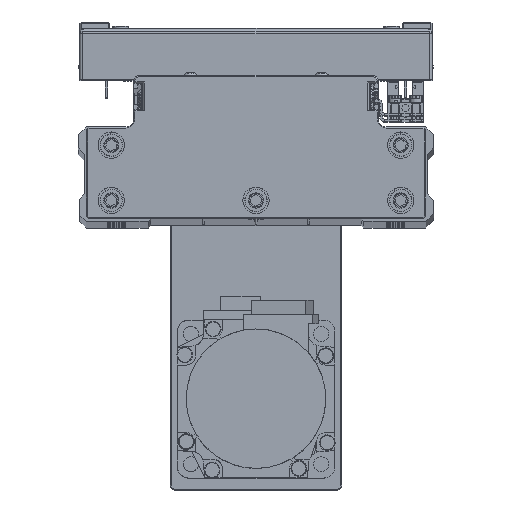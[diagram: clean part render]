
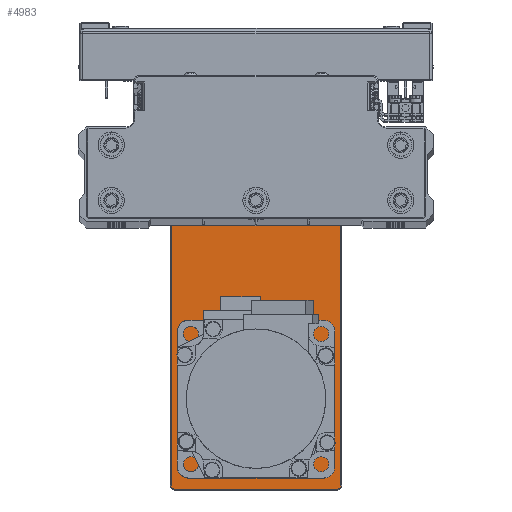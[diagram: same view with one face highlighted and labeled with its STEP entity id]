
A CAD part, top view. The second image highlights one B-rep face of the part: STEP entity #4983.
In plain terms, the highlighted planar face has unit normal (0, 0, 1) as drawn and (0, 1, 0) by its records, which use the part's own axes.
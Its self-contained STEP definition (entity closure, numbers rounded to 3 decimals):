
#453 = VERTEX_POINT ( 'NONE', #2696 ) ;
#470 = CARTESIAN_POINT ( 'NONE',  ( 75.992, 6., -7.026 ) ) ;
#481 = DIRECTION ( 'NONE',  ( 0., 1., 0. ) ) ;
#2177 = FACE_OUTER_BOUND ( 'NONE', #15603, .T. ) ;
#2343 = CARTESIAN_POINT ( 'NONE',  ( 84.7, 6., 31. ) ) ;
#2696 = CARTESIAN_POINT ( 'NONE',  ( 75.992, 6., -10.076 ) ) ;
#2980 = CIRCLE ( 'NONE', #28522, 1.525 ) ;
#4983 = ADVANCED_FACE ( 'NONE', ( #5636, #19573, #33462, #2177, #16117 ), #30048, .F. ) ;
#5180 = AXIS2_PLACEMENT_3D ( 'NONE', #44129, #12859, #26793 ) ;
#5270 = ORIENTED_EDGE ( 'NONE', *, *, #31035, .T. ) ;
#5636 = FACE_BOUND ( 'NONE', #7567, .T. ) ;
#5998 = AXIS2_PLACEMENT_3D ( 'NONE', #12992, #26920, #40820 ) ;
#6191 = CARTESIAN_POINT ( 'NONE',  ( 83.5, 6., 31. ) ) ;
#6651 = DIRECTION ( 'NONE',  ( 0., 0., -1. ) ) ;
#6892 = AXIS2_PLACEMENT_3D ( 'NONE', #28917, #42827, #11552 ) ;
#6955 = EDGE_CURVE ( 'NONE', #29317, #24431, #16482, .T. ) ;
#6975 = CARTESIAN_POINT ( 'NONE',  ( -84.7, 6., -31. ) ) ;
#6990 = CARTESIAN_POINT ( 'NONE',  ( 52.5, 6., -10.3 ) ) ;
#7567 = EDGE_LOOP ( 'NONE', ( #22444, #9499 ) ) ;
#9086 = DIRECTION ( 'NONE',  ( 0., 1., 0. ) ) ;
#9174 = ORIENTED_EDGE ( 'NONE', *, *, #26125, .T. ) ;
#9178 = VERTEX_POINT ( 'NONE', #6975 ) ;
#9353 = CARTESIAN_POINT ( 'NONE',  ( 61.051, 6., 21.967 ) ) ;
#9499 = ORIENTED_EDGE ( 'NONE', *, *, #12367, .F. ) ;
#9758 = CARTESIAN_POINT ( 'NONE',  ( 52.5, 6., 0. ) ) ;
#9945 = LINE ( 'NONE', #23884, #40568 ) ;
#10646 = LINE ( 'NONE', #24583, #21865 ) ;
#11027 = ORIENTED_EDGE ( 'NONE', *, *, #11296, .F. ) ;
#11200 = CIRCLE ( 'NONE', #36702, 1.2 ) ;
#11296 = EDGE_CURVE ( 'NONE', #32236, #453, #2980, .T. ) ;
#11552 = DIRECTION ( 'NONE',  ( 0., 0., 1. ) ) ;
#11945 = ORIENTED_EDGE ( 'NONE', *, *, #39210, .F. ) ;
#12367 = EDGE_CURVE ( 'NONE', #13550, #28107, #25699, .T. ) ;
#12700 = DIRECTION ( 'NONE',  ( 0., -1., 0. ) ) ;
#12859 = DIRECTION ( 'NONE',  ( 0., -1., 0. ) ) ;
#12979 = CARTESIAN_POINT ( 'NONE',  ( -50.5, 6., -15. ) ) ;
#12992 = CARTESIAN_POINT ( 'NONE',  ( 61.051, 6., 23.492 ) ) ;
#13014 = CARTESIAN_POINT ( 'NONE',  ( 0., 6., 32.2 ) ) ;
#13065 = DIRECTION ( 'NONE',  ( 0., 1., 0. ) ) ;
#13286 = CIRCLE ( 'NONE', #38766, 1.2 ) ;
#13506 = EDGE_LOOP ( 'NONE', ( #20929, #11945 ) ) ;
#13550 = VERTEX_POINT ( 'NONE', #9353 ) ;
#13753 = CARTESIAN_POINT ( 'NONE',  ( 83.5, 6., 32.2 ) ) ;
#13769 = DIRECTION ( 'NONE',  ( 0., 1., 0. ) ) ;
#14398 = VERTEX_POINT ( 'NONE', #29789 ) ;
#14423 = DIRECTION ( 'NONE',  ( 0., 0., 1. ) ) ;
#14674 = CARTESIAN_POINT ( 'NONE',  ( -83.5, 6., 31. ) ) ;
#15388 = VERTEX_POINT ( 'NONE', #6990 ) ;
#15566 = CIRCLE ( 'NONE', #41061, 1.2 ) ;
#15603 = EDGE_LOOP ( 'NONE', ( #25309, #25994, #36723, #29000, #44263, #9174, #5270, #30388 ) ) ;
#15770 = CARTESIAN_POINT ( 'NONE',  ( -83.5, 6., -31. ) ) ;
#16117 = FACE_BOUND ( 'NONE', #13506, .T. ) ;
#16482 = LINE ( 'NONE', #30415, #20171 ) ;
#16896 = CIRCLE ( 'NONE', #42392, 1.525 ) ;
#18132 = VERTEX_POINT ( 'NONE', #21444 ) ;
#18474 = EDGE_CURVE ( 'NONE', #9178, #41235, #10646, .T. ) ;
#18475 = AXIS2_PLACEMENT_3D ( 'NONE', #24019, #37908, #6651 ) ;
#18536 = CARTESIAN_POINT ( 'NONE',  ( -84.7, 6., 31. ) ) ;
#18901 = EDGE_CURVE ( 'NONE', #41603, #29675, #43736, .T. ) ;
#19276 = AXIS2_PLACEMENT_3D ( 'NONE', #40339, #9086, #23032 ) ;
#19525 = EDGE_CURVE ( 'NONE', #18132, #15388, #26189, .T. ) ;
#19573 = FACE_BOUND ( 'NONE', #34201, .T. ) ;
#20146 = DIRECTION ( 'NONE',  ( 0., 1., 0. ) ) ;
#20171 = VECTOR ( 'NONE', #44336, 1000. ) ;
#20929 = ORIENTED_EDGE ( 'NONE', *, *, #18901, .F. ) ;
#21444 = CARTESIAN_POINT ( 'NONE',  ( 52.5, 6., 10.3 ) ) ;
#21761 = VERTEX_POINT ( 'NONE', #13753 ) ;
#21865 = VECTOR ( 'NONE', #38474, 1000. ) ;
#22071 = VERTEX_POINT ( 'NONE', #26501 ) ;
#22237 = CARTESIAN_POINT ( 'NONE',  ( 84.7, 6., -31. ) ) ;
#22444 = ORIENTED_EDGE ( 'NONE', *, *, #30612, .F. ) ;
#23032 = DIRECTION ( 'NONE',  ( 0., 0., 1. ) ) ;
#23707 = DIRECTION ( 'NONE',  ( 0., -1., 0. ) ) ;
#23884 = CARTESIAN_POINT ( 'NONE',  ( 0., 6., -32.2 ) ) ;
#24019 = CARTESIAN_POINT ( 'NONE',  ( 83.5, 6., -31. ) ) ;
#24057 = AXIS2_PLACEMENT_3D ( 'NONE', #31756, #481, #14423 ) ;
#24301 = EDGE_LOOP ( 'NONE', ( #36414, #43554 ) ) ;
#24431 = VERTEX_POINT ( 'NONE', #22237 ) ;
#24583 = CARTESIAN_POINT ( 'NONE',  ( -84.7, 6., 0. ) ) ;
#24865 = CIRCLE ( 'NONE', #5180, 10.3 ) ;
#24869 = CARTESIAN_POINT ( 'NONE',  ( -50.5, 6., 15. ) ) ;
#25309 = ORIENTED_EDGE ( 'NONE', *, *, #32145, .T. ) ;
#25699 = CIRCLE ( 'NONE', #5998, 1.525 ) ;
#25896 = ORIENTED_EDGE ( 'NONE', *, *, #26508, .F. ) ;
#25994 = ORIENTED_EDGE ( 'NONE', *, *, #41892, .T. ) ;
#26125 = EDGE_CURVE ( 'NONE', #14398, #21761, #44297, .T. ) ;
#26189 = CIRCLE ( 'NONE', #31992, 10.3 ) ;
#26501 = CARTESIAN_POINT ( 'NONE',  ( -83.5, 6., -32.2 ) ) ;
#26508 = EDGE_CURVE ( 'NONE', #453, #32236, #38916, .T. ) ;
#26590 = CIRCLE ( 'NONE', #6892, 15. ) ;
#26637 = DIRECTION ( 'NONE',  ( 0., 0., -1. ) ) ;
#26793 = DIRECTION ( 'NONE',  ( 0., 0., -1. ) ) ;
#26920 = DIRECTION ( 'NONE',  ( 0., 1., 0. ) ) ;
#26943 = DIRECTION ( 'NONE',  ( 1., 0., 0. ) ) ;
#26995 = DIRECTION ( 'NONE',  ( 0., 0., 1. ) ) ;
#27684 = DIRECTION ( 'NONE',  ( 0., 0., 1. ) ) ;
#28107 = VERTEX_POINT ( 'NONE', #38328 ) ;
#28522 = AXIS2_PLACEMENT_3D ( 'NONE', #44343, #13065, #26995 ) ;
#28597 = DIRECTION ( 'NONE',  ( 0., 1., 0. ) ) ;
#28917 = CARTESIAN_POINT ( 'NONE',  ( -50.5, 6., 0. ) ) ;
#29000 = ORIENTED_EDGE ( 'NONE', *, *, #18474, .T. ) ;
#29317 = VERTEX_POINT ( 'NONE', #2343 ) ;
#29675 = VERTEX_POINT ( 'NONE', #12979 ) ;
#29693 = DIRECTION ( 'NONE',  ( 0., 1., 0. ) ) ;
#29789 = CARTESIAN_POINT ( 'NONE',  ( -83.5, 6., 32.2 ) ) ;
#30048 = PLANE ( 'NONE',  #31770 ) ;
#30388 = ORIENTED_EDGE ( 'NONE', *, *, #6955, .T. ) ;
#30415 = CARTESIAN_POINT ( 'NONE',  ( 84.7, 6., 0. ) ) ;
#30612 = EDGE_CURVE ( 'NONE', #28107, #13550, #16896, .T. ) ;
#31035 = EDGE_CURVE ( 'NONE', #21761, #29317, #13286, .T. ) ;
#31756 = CARTESIAN_POINT ( 'NONE',  ( -50.5, 6., 0. ) ) ;
#31770 = AXIS2_PLACEMENT_3D ( 'NONE', #43972, #12700, #26637 ) ;
#31992 = AXIS2_PLACEMENT_3D ( 'NONE', #9758, #23707, #37603 ) ;
#32145 = EDGE_CURVE ( 'NONE', #24431, #33202, #38117, .T. ) ;
#32236 = VERTEX_POINT ( 'NONE', #470 ) ;
#32430 = EDGE_CURVE ( 'NONE', #22071, #9178, #15566, .T. ) ;
#33162 = CARTESIAN_POINT ( 'NONE',  ( 83.5, 6., -32.2 ) ) ;
#33202 = VERTEX_POINT ( 'NONE', #33162 ) ;
#33462 = FACE_BOUND ( 'NONE', #24301, .T. ) ;
#34029 = DIRECTION ( 'NONE',  ( 0., 0., -1. ) ) ;
#34201 = EDGE_LOOP ( 'NONE', ( #11027, #25896 ) ) ;
#35272 = EDGE_CURVE ( 'NONE', #15388, #18132, #24865, .T. ) ;
#36414 = ORIENTED_EDGE ( 'NONE', *, *, #19525, .T. ) ;
#36702 = AXIS2_PLACEMENT_3D ( 'NONE', #14674, #28597, #42503 ) ;
#36709 = VECTOR ( 'NONE', #26943, 1000. ) ;
#36723 = ORIENTED_EDGE ( 'NONE', *, *, #32430, .T. ) ;
#37603 = DIRECTION ( 'NONE',  ( 0., 0., -1. ) ) ;
#37771 = DIRECTION ( 'NONE',  ( -1., 0., 0. ) ) ;
#37908 = DIRECTION ( 'NONE',  ( 0., 1., 0. ) ) ;
#38117 = CIRCLE ( 'NONE', #18475, 1.2 ) ;
#38169 = EDGE_CURVE ( 'NONE', #41235, #14398, #11200, .T. ) ;
#38328 = CARTESIAN_POINT ( 'NONE',  ( 61.051, 6., 25.017 ) ) ;
#38474 = DIRECTION ( 'NONE',  ( 0., 0., 1. ) ) ;
#38766 = AXIS2_PLACEMENT_3D ( 'NONE', #6191, #20146, #34029 ) ;
#38916 = CIRCLE ( 'NONE', #19276, 1.525 ) ;
#39210 = EDGE_CURVE ( 'NONE', #29675, #41603, #26590, .T. ) ;
#40339 = CARTESIAN_POINT ( 'NONE',  ( 75.992, 6., -8.551 ) ) ;
#40568 = VECTOR ( 'NONE', #37771, 1000. ) ;
#40820 = DIRECTION ( 'NONE',  ( 0., 0., 1. ) ) ;
#41061 = AXIS2_PLACEMENT_3D ( 'NONE', #15770, #29693, #43613 ) ;
#41235 = VERTEX_POINT ( 'NONE', #18536 ) ;
#41603 = VERTEX_POINT ( 'NONE', #24869 ) ;
#41892 = EDGE_CURVE ( 'NONE', #33202, #22071, #9945, .T. ) ;
#42392 = AXIS2_PLACEMENT_3D ( 'NONE', #45039, #13769, #27684 ) ;
#42503 = DIRECTION ( 'NONE',  ( 0., 0., -1. ) ) ;
#42827 = DIRECTION ( 'NONE',  ( 0., 1., 0. ) ) ;
#43554 = ORIENTED_EDGE ( 'NONE', *, *, #35272, .T. ) ;
#43613 = DIRECTION ( 'NONE',  ( 0., 0., -1. ) ) ;
#43736 = CIRCLE ( 'NONE', #24057, 15. ) ;
#43972 = CARTESIAN_POINT ( 'NONE',  ( 0., 6., 0. ) ) ;
#44129 = CARTESIAN_POINT ( 'NONE',  ( 52.5, 6., 0. ) ) ;
#44263 = ORIENTED_EDGE ( 'NONE', *, *, #38169, .T. ) ;
#44297 = LINE ( 'NONE', #13014, #36709 ) ;
#44336 = DIRECTION ( 'NONE',  ( 0., 0., -1. ) ) ;
#44343 = CARTESIAN_POINT ( 'NONE',  ( 75.992, 6., -8.551 ) ) ;
#45039 = CARTESIAN_POINT ( 'NONE',  ( 61.051, 6., 23.492 ) ) ;
